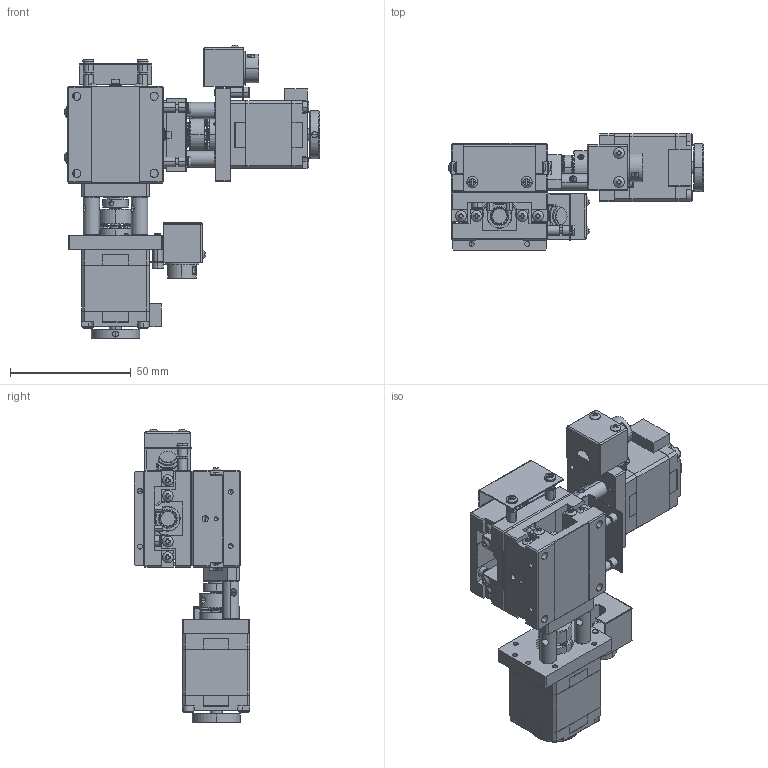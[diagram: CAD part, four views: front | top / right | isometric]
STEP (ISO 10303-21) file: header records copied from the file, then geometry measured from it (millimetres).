
FILE_DESCRIPTION (( 'STEP AP214' ), '1' );
FILE_NAME ('TYS4015E-L1-M28L.STEP', '2025-01-03T09:18:35', ( '' ), ( '' ), 'SwSTEP 2.0', 'SolidWorks 2020', '' );
FILE_SCHEMA (( 'AUTOMOTIVE_DESIGN' ));
Length unit declared in the file: millimetre
Products named in the file (2): TXS4015E-L1-M28L; TYS4015E-L1-M28L
Assembly tree (2 placements, depth 2):
  TYS4015E-L1-M28L
    TXS4015E-L1-M28L  x2
Bounding box: 105.63 x 48 x 121.63 mm (x, y, z)
Volume: 123932.1 mm3; surface area: 77129 mm2
Topology: 170 solids, 170 shells, 3636 faces, 9396 edges, 6064 vertices
Faces by surface type: plane 1788, cylinder 1164, cone 356, bspline 168, sphere 112, torus 48
Entity records: 60576 total; most frequent: CARTESIAN_POINT 16679, ORIENTED_EDGE 8996, DIRECTION 8676, EDGE_CURVE 4498, AXIS2_PLACEMENT_3D 3151, VERTEX_POINT 2948, LINE 2374, VECTOR 2374
